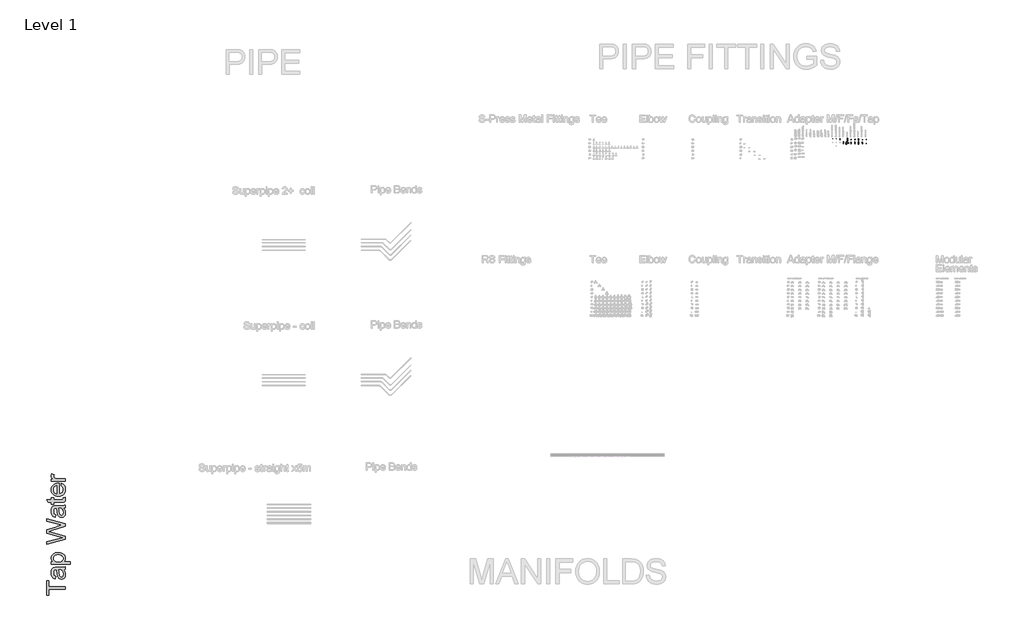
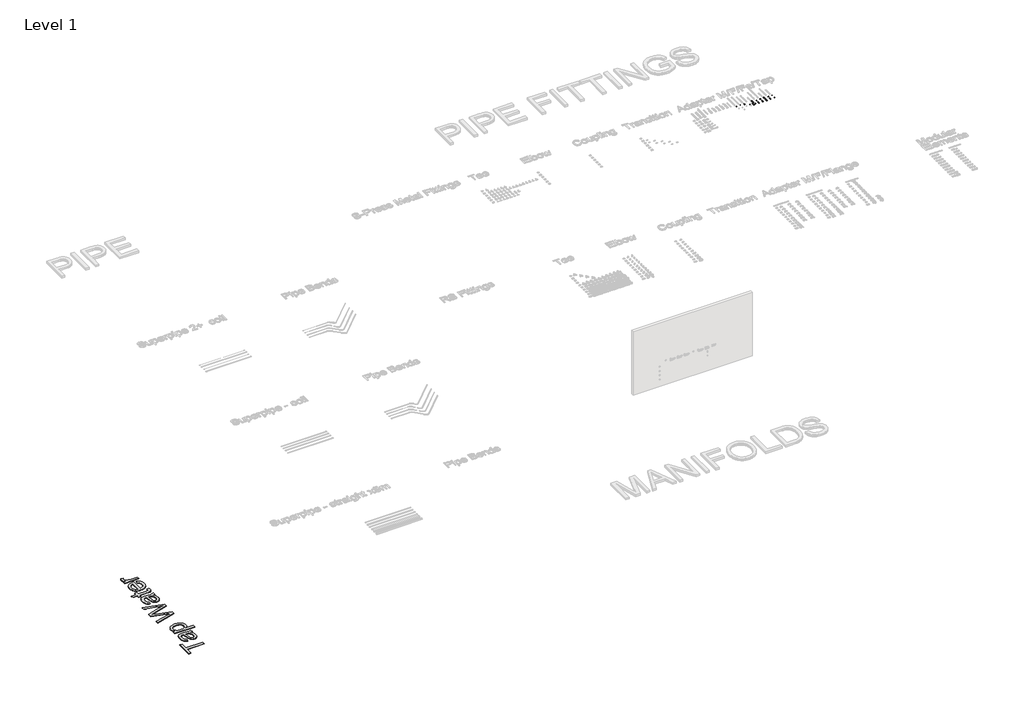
# One storey, part 6 of 58: 55 pipe fittings, 1 proxy.
"""IFC4 building model written with IfcOpenShell, lengths in millimetres."""

from ifc_helpers import new_model, si_unit, frame, origin, place, context, project, spatial, polyline, outline, extrude, transform, mapped, element, save
from components import pipe_fitting_8efa302d, pipe_fitting_ba7d6cd7, pipe_fitting_62024e3c, pipe_fitting_831a4182, pipe_fitting_687f7d2e, pipe_fitting_fd43bd29, pipe_fitting_230b2432, pipe_fitting_d8af90f1, pipe_fitting_8ddd92a3, pipe_fitting_2b53eb9e, pipe_fitting_a4cde8ab, pipe_fitting_0ffa7dfd, manifold_cap_ft_4510c732, manifold_cap_ft_2143a354, pipe_fitting_483da3ce

model = new_model("IFC4")

# Units and contexts
model_context = context("Model", 3, world=origin())
ifc_project = project(units=[si_unit("LENGTHUNIT", "METRE", prefix="MILLI")], contexts=[model_context])

# Site, building, storey
site = spatial("IfcSite", under=ifc_project)
building = spatial("IfcBuilding", under=site)
storey = spatial("IfcBuildingStorey", under=building, Name="Level 1", Elevation=27.3876384)

# Proxy
placement = place(None, origin())
element("IfcBuildingElementProxy", 1, Name="1500mm Arial - color", ObjectType="1500mm Arial - color", at=placement, inside=storey, context=model_context, shape_type="SweptSolid", body=[
    extrude(outline(polyline([(-29682.7797946, -6207.3028458), (-31001.2688653, -6207.3028458), (-31001.2688653, -6701.7362473), (-31189.6244468, -6701.7362473), (-31189.6244468, -5524.5138628), (-31001.2688653, -5524.5138628), (-31001.2688653, -6018.9472643), (-29682.7797946, -6018.9472643), (-29682.7797946, -6207.3028458)])), frame((0.0, 0.0, 27.3876384), z_axis=(0.0, 0.0, 1.0), x_axis=(1.0, 0.0, 0.0)), (0.0, 0.0, 1.0), 30.0),
    extrude(outline(polyline([(-29824.0464807, -4629.8248505), (-29782.1309259, -4674.488024), (-29746.8832322, -4719.8179836), (-29718.3033997, -4765.8147293), (-29696.3914284, -4812.4782611), (-29680.1356427, -4860.3374094), (-29668.5243673, -4909.9210046), (-29661.557602, -4961.2290466), (-29659.2353469, -5014.2615355), (-29664.8225547, -5098.127134), (-29671.8065644, -5136.1885502), (-29681.5841781, -5171.6690441), (-29694.1553956, -5204.568616), (-29709.5202171, -5234.8872658), (-29727.6786424, -5262.6249934), (-29748.6306717, -5287.7817989), (-29771.755504, -5310.1564968), (-29796.4323384, -5329.5479016), (-29822.6611751, -5345.9560134), (-29850.4420139, -5359.3808322), (-29879.7748548, -5369.8223579), (-29910.659698, -5377.2805905), (-29977.0853907, -5383.2471766), (-30017.0235798, -5380.9938994), (-30055.1683442, -5374.2340677), (-30091.5196838, -5362.9676816), (-30126.0775988, -5347.1947411), (-30158.0833323, -5327.7544769), (-30186.778128, -5305.4861199), (-30212.1619856, -5280.38967), (-30234.2349053, -5252.4651273), (-30270.1033999, -5190.1551144), (-30296.0390805, -5120.5794321), (-30310.4784488, -5052.7971745), (-30324.3659942, -4957.6077082), (-30338.6214215, -4854.0029413), (-30354.1644358, -4765.0214837), (-30370.995037, -4690.6633355), (-30389.1132253, -4630.9284965), (-30431.0517728, -4629.8248505), (-30476.7151254, -4633.0668106), (-30515.1128087, -4642.7926908), (-30546.2448225, -4659.0024912), (-30570.1111669, -4681.6962118), (-30593.9315261, -4720.9216296), (-30610.9460684, -4768.7003037), (-30621.1547938, -4825.0322342), (-30624.5577022, -4889.9174211), (-30622.2929287, -4950.2500683), (-30615.4986081, -5002.1214296), (-30604.1747404, -5045.531505), (-30588.3213257, -5080.4802946), (-30566.6967622, -5109.1980828), (-30538.0594481, -5133.9151544), (-30502.4093835, -5154.6315092), (-30459.7465684, -5171.3471474), (-30483.2910161, -5359.7027289), (-30537.5536104, -5345.3668274), (-30586.2979747, -5327.0072166), (-30629.5241092, -5304.6238965), (-30667.2320137, -5278.216867), (-30700.1804448, -5246.6479933), (-30729.1281593, -5208.7791404), (-30754.0751571, -5164.6103084), (-30775.0214382, -5114.1414972), (-30791.5991207, -5058.3958786), (-30803.4403224, -4998.3966244), (-30810.5450434, -4934.1437347), (-30812.9132837, -4865.6372094), (-30810.8209549, -4798.67119), (-30804.5439684, -4738.3040538), (-30794.0823241, -4684.535801), (-30779.4360222, -4637.3664314), (-30761.6282344, -4596.4050705), (-30741.6821324, -4561.2608436), (-30719.5977164, -4531.9337508), (-30695.3749863, -4508.4237921), (-30668.4161338, -4489.3629062), (-30638.1233508, -4473.3830321), (-30604.4966372, -4460.4841696), (-30567.535993, -4450.6663188), (-30502.4208798, -4443.7685314), (-30402.7248591, -4441.469269), (-30168.3840282, -4441.469269), (-29964.2555061, -4439.078036), (-29841.1529935, -4431.9043371), (-29760.2649398, -4417.7408803), (-29682.7797946, -4394.3803736), (-29682.7797946, -4582.7359551), (-29714.2337052, -4599.4745859), (-29748.2627897, -4612.9022787), (-29784.8670482, -4623.0190336), (-29824.0464807, -4629.8248505)]), holes=[polyline([(-30200.7576438, -4629.8248505), (-30184.4558729, -4686.7545893), (-30169.3957037, -4756.3762568), (-30143.0001705, -4933.6953785), (-30128.5608022, -5031.4140335), (-30112.4659649, -5095.7473974), (-30091.5886617, -5137.9158711), (-30078.1839615, -5154.8959244), (-30062.8018956, -5169.1398554), (-30045.9942869, -5180.4062415), (-30028.3129585, -5188.4536602), (-30009.7579104, -5193.2821114), (-29990.3291425, -5194.8915951), (-29961.0595313, -5191.3852198), (-29934.3191088, -5180.866094), (-29910.107875, -5163.3342177), (-29888.4258299, -5138.7895908), (-29870.5605605, -5107.4621397), (-29857.7996538, -5069.5817905), (-29850.1431097, -5025.1485433), (-29847.5909284, -4974.162398), (-29850.4075249, -4922.1070957), (-29858.8573145, -4872.9948493), (-29872.9402971, -4826.8256589), (-29892.6564728, -4783.5995245), (-29916.3733652, -4744.604033), (-29942.4584979, -4711.1267714), (-29970.911871, -4683.1677398), (-30001.7334844, -4660.7269381), (-30029.324634, -4647.6901199), (-30062.8018956, -4638.3781069), (-30102.1652691, -4632.7908991), (-30147.4147545, -4630.9284965), (-30200.7576438, -4629.8248505)])]), frame((0.0, 0.0, 27.3876384), z_axis=(0.0, 0.0, 1.0), x_axis=(1.0, 0.0, 0.0)), (0.0, 0.0, 1.0), 30.0),
    extrude(outline(polyline([(-29258.9797361, -4182.4803444), (-30789.3688361, -4182.4803444), (-30789.3688361, -3994.1247628), (-30604.6920745, -3994.1247628), (-30653.4939204, -3964.3263212), (-30695.7888535, -3932.6884696), (-30731.5768739, -3899.2112081), (-30760.8579814, -3863.8945365), (-30783.6321762, -3825.7267795), (-30799.8994582, -3783.6962616), (-30809.6598274, -3737.8029827), (-30812.9132837, -3688.0469428), (-30808.3607441, -3622.3570141), (-30794.703125, -3560.667802), (-30771.9404265, -3502.9793066), (-30740.0726487, -3449.291528), (-30699.927526, -3400.7770899), (-30652.3327929, -3358.6086162), (-30597.2884493, -3322.7861069), (-30534.7944954, -3293.309562), (-30466.9892452, -3270.2939447), (-30396.0110127, -3253.854218), (-30321.8597981, -3243.990382), (-30244.5356012, -3240.7024367), (-30161.8656191, -3244.4157456), (-30083.4492726, -3255.5556723), (-30009.2865616, -3274.1222167), (-29939.3774862, -3300.1153789), (-29875.54996, -3333.1787733), (-29819.6318968, -3372.956014), (-29771.6232964, -3419.4471011), (-29731.5241589, -3472.6520347), (-29699.8978037, -3529.9611517), (-29677.3075499, -3588.7647894), (-29663.7533976, -3649.0629477), (-29659.2353469, -3710.8556265), (-29662.258877, -3755.3118664), (-29671.3294675, -3797.4458512), (-29686.4471182, -3837.2575808), (-29707.6118292, -3874.7470554), (-29733.3980578, -3909.4544224), (-29762.3802613, -3940.9198293), (-29794.5584395, -3969.1432761), (-29829.9325926, -3994.1247628), (-29258.9797361, -3994.1247628), (-29258.9797361, -4182.4803444)]), holes=[polyline([(-30227.2451474, -3994.1247628), (-30136.4702651, -3989.0318965), (-30058.3873116, -3973.7532974), (-30024.1053082, -3962.294348), (-29992.996287, -3948.2889655), (-29965.060248, -3931.7371498), (-29940.2971912, -3912.6389009), (-29899.7382012, -3869.7231669), (-29870.7674941, -3822.4618268), (-29853.3850698, -3770.8548807), (-29847.5909284, -3714.9023285), (-29853.5920034, -3658.1450344), (-29861.0933473, -3631.3442563), (-29871.5952286, -3605.5953907), (-29901.6006038, -3557.2533972), (-29943.6081291, -3513.1190541), (-29969.2621502, -3493.4172489), (-29998.2156128, -3476.3423509), (-30030.4685171, -3461.8943604), (-30066.020863, -3450.0732772), (-30104.8726506, -3440.8791014), (-30147.0238799, -3434.311833), (-30241.2246632, -3429.0580182), (-30331.2177963, -3434.1853736), (-30409.162794, -3449.5674395), (-30443.6172422, -3461.1039889), (-30475.0596564, -3475.204216), (-30503.4900369, -3491.8681208), (-30528.9083835, -3511.0957032), (-30570.7549604, -3554.114904), (-30600.6453725, -3601.1348215), (-30618.5796198, -3652.1554557), (-30624.5577022, -3707.1768066), (-30622.968337, -3735.0065047), (-30618.2002415, -3762.0257128), (-30610.2534156, -3788.2344309), (-30599.1278593, -3813.632659), (-30567.3405557, -3861.997645), (-30522.8383305, -3907.120671), (-30495.9685745, -3927.512255), (-30466.2189922, -3945.1849612), (-30433.5895837, -3960.1387895), (-30398.0803489, -3972.3737399), (-30359.6912879, -3981.8898124), (-30318.4224007, -3988.6870071), (-30227.2451474, -3994.1247628)])]), frame((0.0, 0.0, 27.3876384), z_axis=(0.0, 0.0, 1.0), x_axis=(1.0, 0.0, 0.0)), (0.0, 0.0, 1.0), 30.0),
    extrude(outline(polyline([(-29682.7797946, -2146.9892651), (-31189.6244468, -2557.9134537), (-31189.6244468, -2363.6717602), (-30199.2861158, -2125.2842273), (-29893.5761778, -2051.7078283), (-30163.9694443, -1972.9810813), (-31189.6244468, -1674.2609012), (-31189.6244468, -1394.3027029), (-30446.1349346, -1177.2523258), (-30308.2711569, -1127.7032195), (-30170.2234382, -1084.2701515), (-30031.9917785, -1046.9531216), (-29893.5761778, -1015.7521299), (-30190.4569479, -944.3830228), (-31189.6244468, -703.788198), (-31189.6244468, -509.5465045), (-29682.7797946, -920.8385751), (-29682.7797946, -1122.0700265), (-30845.2868993, -1483.3301458), (-31007.5228592, -1533.7299791), (-30812.1775198, -1590.3838063), (-29682.7797946, -1919.638192), (-29682.7797946, -2146.9892651)])), frame((0.0, 0.0, 27.3876384), z_axis=(0.0, 0.0, 1.0), x_axis=(1.0, 0.0, 0.0)), (0.0, 0.0, 1.0), 30.0),
    extrude(outline(polyline([(-29824.0464807, 361.5980601), (-29782.1309259, 316.9348866), (-29746.8832322, 271.604927), (-29718.3033997, 225.6081813), (-29696.3914284, 178.9446495), (-29680.1356427, 131.0855011), (-29668.5243673, 81.501906), (-29661.557602, 30.193864), (-29659.2353469, -22.8386249), (-29664.8225547, -106.7042235), (-29671.8065644, -144.7656396), (-29681.5841781, -180.2461336), (-29694.1553956, -213.1457055), (-29709.5202171, -243.4643552), (-29727.6786424, -271.2020828), (-29748.6306717, -296.3588883), (-29771.755504, -318.7335862), (-29796.4323384, -338.1249911), (-29822.6611751, -354.5331029), (-29850.4420139, -367.9579216), (-29879.7748548, -378.3994473), (-29910.659698, -385.85768), (-29977.0853907, -391.8242661), (-30017.0235798, -389.5709888), (-30055.1683442, -382.8111572), (-30091.5196838, -371.5447711), (-30126.0775988, -355.7718305), (-30158.0833323, -336.3315664), (-30186.778128, -314.0632093), (-30212.1619856, -288.9667595), (-30234.2349053, -261.0422168), (-30270.1033999, -198.7322038), (-30296.0390805, -129.1565215), (-30310.4784488, -61.3742639), (-30324.3659942, 33.8152024), (-30338.6214215, 137.4199692), (-30354.1644358, 226.4014268), (-30370.995037, 300.7595751), (-30389.1132253, 360.4944141), (-30431.0517728, 361.5980601), (-30476.7151254, 358.3561), (-30515.1128087, 348.6302197), (-30546.2448225, 332.4204193), (-30570.1111669, 309.7266987), (-30593.9315261, 270.501281), (-30610.9460684, 222.7226069), (-30621.1547938, 166.3906764), (-30624.5577022, 101.5054895), (-30622.2929287, 41.1728423), (-30615.4986081, -10.6985191), (-30604.1747404, -54.1085945), (-30588.3213257, -89.057384), (-30566.6967622, -117.7751723), (-30538.0594481, -142.4922438), (-30502.4093835, -163.2085987), (-30459.7465684, -179.9242368), (-30483.2910161, -368.2798184), (-30537.5536104, -353.9439169), (-30586.2979747, -335.5843061), (-30629.5241092, -313.2009859), (-30667.2320137, -286.7939564), (-30700.1804448, -255.2250827), (-30729.1281593, -217.3562299), (-30754.0751571, -173.1873978), (-30775.0214382, -122.7185866), (-30791.5991207, -66.972968), (-30803.4403224, -6.9737139), (-30810.5450434, 57.2791759), (-30812.9132837, 125.7857012), (-30810.8209549, 192.7517206), (-30804.5439684, 253.1188567), (-30794.0823241, 306.8871096), (-30779.4360222, 354.0564792), (-30761.6282344, 395.0178401), (-30741.6821324, 430.1620669), (-30719.5977164, 459.4891597), (-30695.3749863, 482.9991185), (-30668.4161338, 502.0600043), (-30638.1233508, 518.0398785), (-30604.4966372, 530.938741), (-30567.535993, 540.7565917), (-30502.4208798, 547.6543791), (-30402.7248591, 549.9536416), (-30168.3840282, 549.9536416), (-29964.2555061, 552.3448746), (-29841.1529935, 559.5185735), (-29760.2649398, 573.6820303), (-29682.7797946, 597.042537), (-29682.7797946, 408.6869554), (-29714.2337052, 391.9483247), (-29748.2627897, 378.5206318), (-29784.8670482, 368.403877), (-29824.0464807, 361.5980601)]), holes=[polyline([(-30200.7576438, 361.5980601), (-30184.4558729, 304.6683213), (-30169.3957037, 235.0466537), (-30143.0001705, 57.727532), (-30128.5608022, -39.9911229), (-30112.4659649, -104.3244868), (-30091.5886617, -146.4929605), (-30078.1839615, -163.4730139), (-30062.8018956, -177.7169449), (-30045.9942869, -188.983331), (-30028.3129585, -197.0307496), (-30009.7579104, -201.8592008), (-29990.3291425, -203.4686845), (-29961.0595313, -199.9623093), (-29934.3191088, -189.4431835), (-29910.107875, -171.9113071), (-29888.4258299, -147.3666803), (-29870.5605605, -116.0392291), (-29857.7996538, -78.1588799), (-29850.1431097, -33.7256327), (-29847.5909284, 17.2605126), (-29850.4075249, 69.3158149), (-29858.8573145, 118.4280612), (-29872.9402971, 164.5972516), (-29892.6564728, 207.8233861), (-29916.3733652, 246.8188776), (-29942.4584979, 280.2961391), (-29970.911871, 308.2551708), (-30001.7334844, 330.6959725), (-30029.324634, 343.7327907), (-30062.8018956, 353.0448037), (-30102.1652691, 358.6320115), (-30147.4147545, 360.4944141), (-30200.7576438, 361.5980601)])]), frame((0.0, 0.0, 27.3876384), z_axis=(0.0, 0.0, 1.0), x_axis=(1.0, 0.0, 0.0)), (0.0, 0.0, 1.0), 30.0),
    extrude(outline(polyline([(-29839.8654065, 1209.1981769), (-29677.2615646, 1232.7426246), (-29663.7419013, 1158.1545501), (-29659.2353469, 1091.8438205), (-29661.18972, 1043.7662422), (-29667.0528393, 1001.4368202), (-29676.8247048, 964.8555543), (-29690.5053165, 934.0224446), (-29707.3589104, 908.1327491), (-29726.6497225, 886.3817262), (-29748.3777528, 868.7693757), (-29772.5430014, 855.2956976), (-29804.9396096, 845.3168985), (-29851.3617189, 838.1891848), (-29911.8093292, 833.9125566), (-29986.2824406, 832.4870139), (-30601.0132545, 832.4870139), (-30601.0132545, 691.2203277), (-30789.3688361, 691.2203277), (-30789.3688361, 832.4870139), (-31058.2905745, 832.4870139), (-31169.0230551, 1020.8425954), (-30789.3688361, 1020.8425954), (-30789.3688361, 1209.1981769), (-30601.0132545, 1209.1981769), (-30601.0132545, 1020.8425954), (-29991.8006705, 1020.8425954), (-29929.8125543, 1023.3257989), (-29894.6798238, 1030.7754093), (-29875.2280633, 1043.7892349), (-29860.2828572, 1062.9650839), (-29850.7639106, 1090.1423663), (-29847.5909284, 1127.160492), (-29839.8654065, 1209.1981769)])), frame((0.0, 0.0, 27.3876384), z_axis=(0.0, 0.0, 1.0), x_axis=(1.0, 0.0, 0.0)), (0.0, 0.0, 1.0), 30.0),
    extrude(outline(polyline([(-30012.4020622, 2172.3132403), (-29988.8576146, 2356.9900019), (-29914.8903409, 2328.6745846), (-29881.2003976, 2310.800693), (-29849.7062499, 2290.449346), (-29820.4078979, 2267.6205438), (-29793.3053415, 2242.3142862), (-29768.3985808, 2214.5305733), (-29745.6876157, 2184.2694052), (-29725.4253652, 2151.6802337), (-29707.8647481, 2116.9125111), (-29693.0057644, 2079.9662373), (-29680.8484141, 2040.8414123), (-29664.6386137, 1956.0561087), (-29659.2353469, 1862.5566004), (-29661.5662242, 1802.5286054), (-29668.5588562, 1745.685089), (-29680.2132428, 1692.0260511), (-29696.5293841, 1641.5514918), (-29717.5072801, 1594.2614109), (-29743.1469307, 1550.1558086), (-29773.448336, 1509.2346848), (-29808.4114959, 1471.4980395), (-29847.5823062, 1437.6126589), (-29890.5066624, 1408.245329), (-29937.1845646, 1383.3960498), (-29987.6160128, 1363.0648214), (-30041.801007, 1347.2516438), (-30099.7395472, 1335.9565169), (-30161.4316333, 1329.1794408), (-30226.8772654, 1326.9204154), (-30294.5503081, 1329.2024334), (-30358.3261008, 1336.0484874), (-30418.2046437, 1347.4585774), (-30474.1859367, 1363.4327034), (-30526.2699798, 1383.9708654), (-30574.456773, 1409.0730635), (-30618.7463163, 1438.7392975), (-30659.1386098, 1472.9695675), (-30695.179549, 1510.8384204), (-30726.4150296, 1551.420403), (-30752.8450517, 1594.7155153), (-30774.4696153, 1640.7237573), (-30791.2887202, 1689.445129), (-30803.3023666, 1740.8796305), (-30810.5105545, 1795.0272616), (-30812.9132837, 1851.8880225), (-30810.5163026, 1906.8892549), (-30803.3253592, 1959.3210614), (-30791.3404536, 2009.1834422), (-30774.5615857, 2056.4763971), (-30752.9887556, 2101.1999262), (-30726.6219633, 2143.3540295), (-30695.4612086, 2182.938707), (-30659.5064918, 2219.9539587), (-30619.2061688, 2253.4513388), (-30575.008596, 2282.4824016), (-30526.9137733, 2307.047147), (-30474.9217007, 2327.145575), (-30419.0323782, 2342.7776858), (-30359.2458058, 2353.9434791), (-30295.5619836, 2360.6429551), (-30227.9809114, 2362.8761138), (-30177.2131961, 2361.7724678), (-30177.2131961, 1515.2759969), (-30102.0503059, 1526.1859974), (-30067.969488, 1535.6848254), (-30036.2224214, 1547.8795388), (-30006.8091063, 1562.7701373), (-29979.7295425, 1580.3566211), (-29954.9837302, 1600.6389902), (-29932.5716693, 1623.6172445), (-29895.3925952, 1675.2701759), (-29868.8361136, 1732.9241823), (-29852.9022247, 1796.5792638), (-29847.5909284, 1866.2354203), (-29850.0511392, 1918.3367079), (-29857.4317718, 1966.483264), (-29869.732826, 2010.6750887), (-29886.9543019, 2050.9121819), (-29909.556052, 2087.1945437), (-29937.9979287, 2119.522174), (-29972.2799321, 2147.8950729), (-30012.4020622, 2172.3132403)]), holes=[polyline([(-30365.5687776, 1515.2759969), (-30365.5687776, 2174.5205323), (-30418.8656817, 2164.8406373), (-30465.0808573, 2149.0447041), (-30504.2143045, 2127.1327328), (-30536.2660234, 2099.1047233), (-30556.9593856, 2074.3071775), (-30574.8936329, 2047.7391997), (-30590.0687652, 2019.4007898), (-30602.4847825, 1989.2919477), (-30619.0394723, 1923.7629673), (-30624.5577022, 1851.1522585), (-30620.1546146, 1784.9220031), (-30606.9453517, 1724.1869849), (-30584.9299135, 1668.9472041), (-30554.1083001, 1619.2026606), (-30515.9060542, 1577.4595504), (-30471.7487185, 1546.2240698), (-30421.6362929, 1525.4962186), (-30365.5687776, 1515.2759969)])]), frame((0.0, 0.0, 27.3876384), z_axis=(0.0, 0.0, 1.0), x_axis=(1.0, 0.0, 0.0)), (0.0, 0.0, 1.0), 30.0),
    extrude(outline(polyline([(-29682.7797946, 2551.2316954), (-30789.3688361, 2551.2316954), (-30789.3688361, 2716.0428292), (-30625.6613482, 2716.0428292), (-30677.992562, 2747.0828725), (-30720.574903, 2776.9272994), (-30753.408371, 2805.5761098), (-30776.4929662, 2833.0293037), (-30792.4268551, 2860.5284828), (-30803.8082044, 2889.3152489), (-30810.6370139, 2919.389602), (-30812.9132837, 2950.7515421), (-30809.280449, 2997.4725555), (-30798.3819449, 3044.5614509), (-30780.2177714, 3092.0182283), (-30754.7879285, 3139.8428876), (-30585.9300927, 3076.9350665), (-30602.8296719, 3043.8256869), (-30614.9007998, 3010.7163073), (-30622.1434766, 2977.6069278), (-30624.5577022, 2944.4975482), (-30622.2354471, 2915.6303079), (-30615.2686818, 2888.2575882), (-30603.6574064, 2862.3793891), (-30587.4016207, 2837.9957106), (-30567.0301552, 2816.0262577), (-30543.0718403, 2797.3907354), (-30515.5266759, 2782.0891436), (-30484.3946621, 2770.1214825), (-30432.9831532, 2756.7627675), (-30379.1804114, 2747.2208283), (-30322.9864367, 2741.4956647), (-30264.4012289, 2739.5872769), (-29682.7797946, 2739.5872769), (-29682.7797946, 2551.2316954)])), frame((0.0, 0.0, 27.3876384), z_axis=(0.0, 0.0, 1.0), x_axis=(1.0, 0.0, 0.0)), (0.0, 0.0, 1.0), 30.0),
])

# Pipe fittings
pipe_fitting_shape = pipe_fitting_8efa302d(model_context)
element("IfcPipeFitting", 2, ObjectType="Coupling Nipple 1/2\"MT : Superpipe Coupling Nipple - 1/2\"MT-1/2\"MT", at=placement, inside=storey, context=model_context, shape_type="MappedRepresentation", body=[
    mapped(pipe_fitting_shape, transform((33041.8041997, 30260.0431886, 27.3876384), x_axis=(1.0, 0.0, 0.0), y_axis=(0.0, 1.0, 0.0), z_axis=(0.0, 0.0, 1.0))),
])
pipe_fitting_2_shape = pipe_fitting_ba7d6cd7(model_context)
element("IfcPipeFitting", 3, ObjectType="Conversion Nipple 3/4\"FT : Superpipe Conversion Nipple  16-3/4\"FT", at=placement, inside=storey, context=model_context, shape_type="MappedRepresentation", body=[
    mapped(pipe_fitting_2_shape, transform((33949.3518929, 30182.5546879, 27.3876384), x_axis=(1.0, 0.0, 0.0), y_axis=(0.0, 1.0, 0.0), z_axis=(0.0, 0.0, 1.0))),
])
element("IfcPipeFitting", 4, ObjectType="Coupling Nipple 1/2\"MT : Superpipe Coupling Nipple - 16-1/2\"MT", at=placement, inside=storey, context=model_context, shape_type="MappedRepresentation", body=[
    mapped(pipe_fitting_shape, transform((33041.8041997, 30183.7870562, 27.3876384), x_axis=(1.0, 0.0, 0.0), y_axis=(0.0, 0.0, -1.0), z_axis=(0.0, 1.0, 0.0))),
])
pipe_fitting_3_shape = pipe_fitting_62024e3c(model_context)
element("IfcPipeFitting", 5, ObjectType="Coupling Nipple 3/4\"MT : Superpipe Coupling Nipple - 16-3/4\"MT", at=placement, inside=storey, context=model_context, shape_type="MappedRepresentation", body=[
    mapped(pipe_fitting_3_shape, transform((33343.4184031, 30011.9125505, 27.3876384), x_axis=(1.0, 0.0, 0.0), y_axis=(0.0, 1.0, 0.0), z_axis=(0.0, 0.0, 1.0))),
])
element("IfcPipeFitting", 6, ObjectType="Conversion Nipple 3/4\"FT : Superpipe Conversion Nipple - 3/4\"MT-3/4\"FT", at=placement, inside=storey, context=model_context, shape_type="MappedRepresentation", body=[
    mapped(pipe_fitting_2_shape, transform((33949.3518929, 29862.5546879, 27.3876384), x_axis=(1.0, 0.0, 0.0), y_axis=(0.0, 1.0, 0.0), z_axis=(0.0, 0.0, 1.0))),
])
element("IfcPipeFitting", 7, ObjectType="Conversion Nipple 3/4\"FT : Superpipe Conversion Nipple - 20-3/4\"FT", at=placement, inside=storey, context=model_context, shape_type="MappedRepresentation", body=[
    mapped(pipe_fitting_2_shape, transform((33949.3518929, 29962.5546879, 27.3876384), x_axis=(1.0, 0.0, 0.0), y_axis=(0.0, 1.0, 0.0), z_axis=(0.0, 0.0, 1.0))),
])
pipe_fitting_4_shape = pipe_fitting_831a4182(model_context)
element("IfcPipeFitting", 8, ObjectType="Conversion Elbow 1/2\"MT-1/2\"FT : Superpipe Conversion Elbow - 1/2\"MT-1/2\"FT", at=placement, inside=storey, context=model_context, shape_type="MappedRepresentation", body=[
    mapped(pipe_fitting_4_shape, transform((34240.1121716, 29865.0431886, 27.3876384), x_axis=(-1.0, 0.0, 0.0), y_axis=(0.0, 1.0000000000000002, 0.0), z_axis=(0.0, 0.0, -1.0000000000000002))),
])
element("IfcPipeFitting", 9, ObjectType="Conversion Elbow 1/2\"MT-1/2\"FT : Superpipe Conversion Elbow - 20-1/2\"FT", at=placement, inside=storey, context=model_context, shape_type="MappedRepresentation", body=[
    mapped(pipe_fitting_4_shape, transform((34240.1121716, 29965.0431886, 27.3876384), x_axis=(-1.0, 0.0, 0.0), y_axis=(0.0, 1.0000000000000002, 0.0), z_axis=(0.0, 0.0, -1.0000000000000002))),
])
element("IfcPipeFitting", 10, ObjectType="Conversion Elbow 1/2\"MT-1/2\"FT : Superpipe Conversion Elbow - 16-1/2\"FT", at=placement, inside=storey, context=model_context, shape_type="MappedRepresentation", body=[
    mapped(pipe_fitting_4_shape, transform((34240.1121716, 30190.0431886, 27.3876384), x_axis=(-1.0, 0.0, 0.0), y_axis=(0.0, 1.0000000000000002, 0.0), z_axis=(0.0, 0.0, -1.0000000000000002))),
])
pipe_fitting_5_shape = pipe_fitting_687f7d2e(model_context)
element("IfcPipeFitting", 11, ObjectType="Conversion Nipple 1/2\"FT : Superpipe Conversion Nipple - 1/2\"MT -1/2\"FT", at=placement, inside=storey, context=model_context, shape_type="MappedRepresentation", body=[
    mapped(pipe_fitting_5_shape, transform((34851.8746831, 29875.0431886, 27.3876384), x_axis=(1.0, 0.0, 0.0), y_axis=(0.0, 1.0, 0.0), z_axis=(0.0, 0.0, 1.0))),
])
element("IfcPipeFitting", 12, ObjectType="Conversion Nipple 1/2\"FT : Superpipe Conversion Nipple - 16-1/2\"FT", at=placement, inside=storey, context=model_context, shape_type="MappedRepresentation", body=[
    mapped(pipe_fitting_5_shape, transform((34861.2071833, 30180.7106884, 27.3876384), x_axis=(1.0, 0.0, 0.0), y_axis=(0.0, 1.0, 0.0), z_axis=(0.0, 0.0, 1.0))),
])
element("IfcPipeFitting", 13, ObjectType="Conversion Nipple 1/2\"FT : Superpipe Conversion Nipple - 20-1/2\"FT", at=placement, inside=storey, context=model_context, shape_type="MappedRepresentation", body=[
    mapped(pipe_fitting_5_shape, transform((34851.8746831, 29975.0431886, 27.3876384), x_axis=(1.0, 0.0, 0.0), y_axis=(0.0, 1.0, 0.0), z_axis=(0.0, 0.0, 1.0))),
])
pipe_fitting_6_shape = pipe_fitting_fd43bd29(model_context)
element("IfcPipeFitting", 14, ObjectType="Compression Adapter 1/2\"FT : Superpipe Compression Adapter", at=placement, inside=storey, context=model_context, shape_type="MappedRepresentation", body=[
    mapped(pipe_fitting_6_shape, transform((32440.8650131, 30264.1922591, 27.3876384), x_axis=(1.0, 0.0, 0.0), y_axis=(0.0, 1.0, 0.0), z_axis=(0.0, 0.0, 1.0))),
])
element("IfcPipeFitting", 15, ObjectType="Compression Adapter 1/2\"FT : Superpipe Compression Adapter", at=placement, inside=storey, context=model_context, shape_type="MappedRepresentation", body=[
    mapped(pipe_fitting_6_shape, transform((33015.8041997, 30183.7870562, 27.3876384), x_axis=(1.0, 0.0, 0.0), y_axis=(0.0, 0.0, -1.0), z_axis=(0.0, 1.0, 0.0))),
])
element("IfcPipeFitting", 16, ObjectType="Compression Adapter 1/2\"FT : Superpipe Compression Adapter", at=placement, inside=storey, context=model_context, shape_type="MappedRepresentation", body=[
    mapped(pipe_fitting_6_shape, transform((34281.1121716, 30190.0431886, 27.3876384), x_axis=(-1.0, 0.0, 0.0), y_axis=(0.0, 1.0000000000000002, 0.0), z_axis=(0.0, 0.0, -1.0000000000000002))),
])
element("IfcPipeFitting", 17, ObjectType="Compression Adapter 1/2\"FT : Superpipe Compression Adapter", at=placement, inside=storey, context=model_context, shape_type="MappedRepresentation", body=[
    mapped(pipe_fitting_6_shape, transform((34832.9571833, 30180.7106884, 27.3876384), x_axis=(1.0, 0.0, 0.0), y_axis=(0.0, 1.0, 0.0), z_axis=(0.0, 0.0, 1.0))),
])
pipe_fitting_7_shape = pipe_fitting_230b2432(model_context)
element("IfcPipeFitting", 18, ObjectType="Compression Adapter 1/2\"FT : Superpipe Compression Adapter", at=placement, inside=storey, context=model_context, shape_type="MappedRepresentation", body=[
    mapped(pipe_fitting_7_shape, transform((34285.1121716, 29965.0431886, 27.3876384), x_axis=(-1.0, 0.0, 0.0), y_axis=(0.0, 1.0000000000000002, 0.0), z_axis=(0.0, 0.0, -1.0000000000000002))),
])
element("IfcPipeFitting", 19, ObjectType="Compression Adapter 1/2\"FT : Superpipe Compression Adapter", at=placement, inside=storey, context=model_context, shape_type="MappedRepresentation", body=[
    mapped(pipe_fitting_7_shape, transform((34816.6246831, 29975.0431886, 27.3876384), x_axis=(1.0, 0.0, 0.0), y_axis=(0.0, 1.0, 0.0), z_axis=(0.0, 0.0, 1.0))),
])
pipe_fitting_8_shape = pipe_fitting_d8af90f1(model_context)
element("IfcPipeFitting", 20, ObjectType="Compression Adapter 3/4\"FT : Superpipe Compression Adapter", at=placement, inside=storey, context=model_context, shape_type="MappedRepresentation", body=[
    mapped(pipe_fitting_8_shape, transform((32726.8746831, 30260.0431886, 27.3876384), x_axis=(1.0, 0.0, 0.0), y_axis=(0.0, 1.0, 0.0), z_axis=(0.0, 0.0, 1.0))),
])
element("IfcPipeFitting", 21, ObjectType="Compression Adapter 3/4\"FT : Superpipe Compression Adapter", at=placement, inside=storey, context=model_context, shape_type="MappedRepresentation", body=[
    mapped(pipe_fitting_8_shape, transform((33644.0929372, 30205.372274, 27.3876384), x_axis=(0.0, 1.0, 0.0), y_axis=(-1.0, 0.0, 0.0), z_axis=(0.0, 0.0, 1.0))),
])
element("IfcPipeFitting", 22, ObjectType="Compression Adapter 3/4\"FT : Superpipe Compression Adapter", at=placement, inside=storey, context=model_context, shape_type="MappedRepresentation", body=[
    mapped(pipe_fitting_8_shape, transform((33659.7145332, 30089.9764499, 27.3876384), x_axis=(1.0, 0.0, 0.0), y_axis=(0.0, 1.0, 0.0), z_axis=(0.0, 0.0, 1.0))),
])
element("IfcPipeFitting", 23, ObjectType="Compression Adapter 3/4\"FT : Superpipe Compression Adapter", at=placement, inside=storey, context=model_context, shape_type="MappedRepresentation", body=[
    mapped(pipe_fitting_8_shape, transform((33644.0929372, 30105.372274, 27.3876384), x_axis=(0.0, 1.0, 0.0), y_axis=(-1.0, 0.0, 0.0), z_axis=(0.0, 0.0, 1.0))),
])
element("IfcPipeFitting", 24, ObjectType="Compression Adapter 3/4\"FT : Superpipe Compression Adapter", at=placement, inside=storey, context=model_context, shape_type="MappedRepresentation", body=[
    mapped(pipe_fitting_8_shape, transform((34531.8746831, 30257.5431886, 27.3876384), x_axis=(0.0, 1.0, 0.0), y_axis=(-1.0, 0.0, 0.0), z_axis=(0.0, 0.0, 1.0))),
])
element("IfcPipeFitting", 25, ObjectType="Compression Adapter 3/4\"FT : Superpipe Compression Adapter", at=placement, inside=storey, context=model_context, shape_type="MappedRepresentation", body=[
    mapped(pipe_fitting_8_shape, transform((34531.8746831, 30157.5431886, 27.3876384), x_axis=(0.0, 1.0, 0.0), y_axis=(-1.0, 0.0, 0.0), z_axis=(0.0, 0.0, 1.0))),
])
element("IfcPipeFitting", 26, ObjectType="Compression Adapter 3/4\"FT : Superpipe Compression Adapter", at=placement, inside=storey, context=model_context, shape_type="MappedRepresentation", body=[
    mapped(pipe_fitting_8_shape, transform((34551.8345617, 30137.5431886, 27.3876384), x_axis=(1.0, 0.0, 0.0), y_axis=(0.0, 1.0, 0.0), z_axis=(0.0, 0.0, 1.0))),
])
pipe_fitting_9_shape = pipe_fitting_8ddd92a3(model_context)
element("IfcPipeFitting", 27, ObjectType="Compression Adapter 3/4\"FT : Superpipe Compression Adapter", at=placement, inside=storey, context=model_context, shape_type="MappedRepresentation", body=[
    mapped(pipe_fitting_9_shape, transform((33337.8277391, 29873.890947, 27.3876384), x_axis=(-1.0, 0.0, 0.0), y_axis=(0.0, -1.0, 0.0), z_axis=(0.0, 0.0, 1.0))),
])
element("IfcPipeFitting", 28, ObjectType="Compression Adapter 3/4\"FT : Superpipe Compression Adapter", at=placement, inside=storey, context=model_context, shape_type="MappedRepresentation", body=[
    mapped(pipe_fitting_9_shape, transform((33551.8160614, 30002.7497821, 27.3876384), x_axis=(-1.0, 0.0, 0.0), y_axis=(0.0, -1.0, 0.0), z_axis=(0.0, 0.0, 1.0))),
])
element("IfcPipeFitting", 29, ObjectType="Compression Adapter 3/4\"FT : Superpipe Compression Adapter", at=placement, inside=storey, context=model_context, shape_type="MappedRepresentation", body=[
    mapped(pipe_fitting_9_shape, transform((33547.9048223, 29917.7300897, 27.3876384), x_axis=(-1.0, 0.0, 0.0), y_axis=(0.0, -1.0, 0.0), z_axis=(0.0, 0.0, 1.0))),
])
element("IfcPipeFitting", 30, ObjectType="Compression Adapter 3/4\"FT : Superpipe Compression Adapter", at=placement, inside=storey, context=model_context, shape_type="MappedRepresentation", body=[
    mapped(pipe_fitting_9_shape, transform((33549.9490576, 29838.9596168, 27.3876384), x_axis=(-1.0, 0.0, 0.0), y_axis=(0.0, -1.0, 0.0), z_axis=(0.0, 0.0, 1.0))),
])
element("IfcPipeFitting", 31, ObjectType="Compression Adapter 3/4\"FT : Superpipe Compression Adapter", at=placement, inside=storey, context=model_context, shape_type="MappedRepresentation", body=[
    mapped(pipe_fitting_9_shape, transform((33941.3518929, 29962.5546879, 27.3876384), x_axis=(-1.0, 0.0, 0.0), y_axis=(0.0, -1.0, 0.0), z_axis=(0.0, 0.0, 1.0))),
])
pipe_fitting_10_shape = pipe_fitting_2b53eb9e(model_context)
element("IfcPipeFitting", 32, ObjectType="Compression Adapter 3/4\"FT : Superpipe Compression Adapter", at=placement, inside=storey, context=model_context, shape_type="MappedRepresentation", body=[
    mapped(pipe_fitting_10_shape, transform((33338.7351792, 30011.9125505, 27.3876384), x_axis=(-1.0, 0.0, 0.0), y_axis=(0.0, -1.0, 0.0), z_axis=(0.0, 0.0, 1.0))),
])
element("IfcPipeFitting", 33, ObjectType="Compression Adapter 3/4\"FT : Superpipe Compression Adapter", at=placement, inside=storey, context=model_context, shape_type="MappedRepresentation", body=[
    mapped(pipe_fitting_10_shape, transform((33628.4713412, 30189.9764499, 27.3876384), x_axis=(-1.0, 0.0, 0.0), y_axis=(0.0, -1.0, 0.0), z_axis=(0.0, 0.0, 1.0))),
])
element("IfcPipeFitting", 34, ObjectType="Compression Adapter 3/4\"FT : Superpipe Compression Adapter", at=placement, inside=storey, context=model_context, shape_type="MappedRepresentation", body=[
    mapped(pipe_fitting_10_shape, transform((33628.4713412, 30089.9764499, 27.3876384), x_axis=(-1.0, 0.0, 0.0), y_axis=(0.0, -1.0, 0.0), z_axis=(0.0, 0.0, 1.0))),
])
element("IfcPipeFitting", 35, ObjectType="Compression Adapter 3/4\"FT : Superpipe Compression Adapter", at=placement, inside=storey, context=model_context, shape_type="MappedRepresentation", body=[
    mapped(pipe_fitting_10_shape, transform((33628.4713412, 30289.9764499, 27.3876384), x_axis=(-1.0, 0.0, 0.0), y_axis=(0.0, -1.0, 0.0), z_axis=(0.0, 0.0, 1.0))),
])
element("IfcPipeFitting", 36, ObjectType="Compression Adapter 3/4\"FT : Superpipe Compression Adapter", at=placement, inside=storey, context=model_context, shape_type="MappedRepresentation", body=[
    mapped(pipe_fitting_10_shape, transform((33941.3518929, 30182.5546879, 27.3876384), x_axis=(-1.0, 0.0, 0.0), y_axis=(0.0, -1.0, 0.0), z_axis=(0.0, 0.0, 1.0))),
])
pipe_fitting_11_shape = pipe_fitting_a4cde8ab(model_context)
element("IfcPipeFitting", 37, ObjectType="Compression Adapter 3/4\"FT : Superpipe Compression Adapter", at=placement, inside=storey, context=model_context, shape_type="MappedRepresentation", body=[
    mapped(pipe_fitting_11_shape, transform((33563.5264183, 29933.1259138, 27.3876384), x_axis=(0.0, 1.0, 0.0), y_axis=(-1.0, 0.0, 0.0), z_axis=(0.0, 0.0, 1.0))),
])
element("IfcPipeFitting", 38, ObjectType="Compression Adapter 3/4\"FT : Superpipe Compression Adapter", at=placement, inside=storey, context=model_context, shape_type="MappedRepresentation", body=[
    mapped(pipe_fitting_11_shape, transform((33581.1922496, 29838.9596168, 27.3876384), x_axis=(1.0, 0.0, 0.0), y_axis=(0.0, 1.0, 0.0), z_axis=(0.0, 0.0, 1.0))),
])
element("IfcPipeFitting", 39, ObjectType="Compression Adapter 3/4\"FT : Superpipe Compression Adapter", at=placement, inside=storey, context=model_context, shape_type="MappedRepresentation", body=[
    mapped(pipe_fitting_11_shape, transform((33565.5706536, 29854.3554409, 27.3876384), x_axis=(0.0, 1.0, 0.0), y_axis=(-1.0, 0.0, 0.0), z_axis=(0.0, 0.0, 1.0))),
])
element("IfcPipeFitting", 40, ObjectType="Compression Adapter 3/4\"FT : Superpipe Compression Adapter", at=placement, inside=storey, context=model_context, shape_type="MappedRepresentation", body=[
    mapped(pipe_fitting_11_shape, transform((34531.8746831, 29995.0431886, 27.3876384), x_axis=(0.0, 1.0, 0.0), y_axis=(-1.0, 0.0, 0.0), z_axis=(0.0, 0.0, 1.0))),
])
element("IfcPipeFitting", 41, ObjectType="Compression Adapter 3/4\"FT : Superpipe Compression Adapter", at=placement, inside=storey, context=model_context, shape_type="MappedRepresentation", body=[
    mapped(pipe_fitting_11_shape, transform((34531.8746831, 29921.1316553, 27.3876384), x_axis=(0.0, 1.0, 0.0), y_axis=(-1.0, 0.0, 0.0), z_axis=(0.0, 0.0, 1.0))),
])
element("IfcPipeFitting", 42, ObjectType="Compression Adapter 3/4\"FT : Superpipe Compression Adapter", at=placement, inside=storey, context=model_context, shape_type="MappedRepresentation", body=[
    mapped(pipe_fitting_11_shape, transform((34551.8345617, 29901.1316553, 27.3876384), x_axis=(1.0, 0.0, 0.0), y_axis=(0.0, 1.0, 0.0), z_axis=(0.0, 0.0, 1.0))),
])
pipe_fitting_12_shape = pipe_fitting_0ffa7dfd(model_context)
element("IfcPipeFitting", 43, ObjectType="Elbow 3/4\" MT : Superpipe Elbow - 3/4\"MT-3/4\"MT", at=placement, inside=storey, context=model_context, shape_type="MappedRepresentation", body=[
    mapped(pipe_fitting_12_shape, transform((34531.8746831, 29822.2788614, 27.3876384), x_axis=(1.0, 0.0, 0.0), y_axis=(0.0, 1.0, 0.0), z_axis=(0.0, 0.0, 1.0))),
])
element("IfcPipeFitting", 44, ObjectType="Elbow 3/4\" MT : Superpipe Elbow - 20-3/4\"MT", at=placement, inside=storey, context=model_context, shape_type="MappedRepresentation", body=[
    mapped(pipe_fitting_12_shape, transform((34531.8746831, 29975.0431886, 27.3876384), x_axis=(1.0, 0.0, 0.0), y_axis=(0.0, 1.0, 0.0), z_axis=(0.0, 0.0, 1.0))),
])
element("IfcPipeFitting", 45, ObjectType="Elbow 3/4\" MT : Superpipe Elbow - 16-3/4\"MT", at=placement, inside=storey, context=model_context, shape_type="MappedRepresentation", body=[
    mapped(pipe_fitting_12_shape, transform((34531.8746831, 30237.5431886, 27.3876384), x_axis=(1.0, 0.0, 0.0), y_axis=(0.0, 1.0, 0.0), z_axis=(0.0, 0.0, 1.0))),
])
element("IfcPipeFitting", 46, ObjectType="Elbow 3/4\" MT : Superpipe Elbow - 16-16", at=placement, inside=storey, context=model_context, shape_type="MappedRepresentation", body=[
    mapped(pipe_fitting_12_shape, transform((34531.8746831, 30137.5431886, 27.3876384), x_axis=(1.0, 0.0, 0.0), y_axis=(0.0, 1.0, 0.0), z_axis=(0.0, 0.0, 1.0))),
])
element("IfcPipeFitting", 47, ObjectType="Elbow 3/4\" MT : Superpipe Elbow - 20-20", at=placement, inside=storey, context=model_context, shape_type="MappedRepresentation", body=[
    mapped(pipe_fitting_12_shape, transform((34531.8746831, 29901.1316553, 27.3876384), x_axis=(1.0, 0.0, 0.0), y_axis=(0.0, 1.0, 0.0), z_axis=(0.0, 0.0, 1.0))),
])
manifold_cap_ft_shape = manifold_cap_ft_4510c732(model_context)
element("IfcPipeFitting", 48, ObjectType="Manifold Cap FT : Superpipe Manifold Cap With Seal- ½\" FT", at=placement, inside=storey, context=model_context, shape_type="MappedRepresentation", body=[
    mapped(manifold_cap_ft_shape, transform((35151.8746831, 30190.0431886, 27.3876384), x_axis=(1.0, 0.0, 0.0), y_axis=(0.0, 1.0, 0.0), z_axis=(0.0, 0.0, 1.0))),
])
manifold_cap_ft_2_shape = manifold_cap_ft_2143a354(model_context)
element("IfcPipeFitting", 49, ObjectType="Manifold Cap FT : Superpipe Manifold Cap With Seal- 1\" FT", at=placement, inside=storey, context=model_context, shape_type="MappedRepresentation", body=[
    mapped(manifold_cap_ft_2_shape, transform((35151.8746831, 29890.0431886, 27.3876384), x_axis=(1.0, 0.0, 0.0), y_axis=(0.0, 1.0, 0.0), z_axis=(0.0, 0.0, 1.0))),
])
pipe_fitting_13_shape = pipe_fitting_483da3ce(model_context)
element("IfcPipeFitting", 50, ObjectType="Tee 3/4\"MT : Superpipe Tee - 3/4\"MT-3/4\"MT-3/4\"MT", at=placement, inside=storey, context=model_context, shape_type="MappedRepresentation", body=[
    mapped(pipe_fitting_13_shape, transform((33704.0929372, 29907.8249346, 27.3876384), x_axis=(1.0, 0.0, 0.0), y_axis=(0.0, 1.0, 0.0), z_axis=(0.0, 0.0, 1.0))),
])
element("IfcPipeFitting", 51, ObjectType="Tee 3/4\"MT : Superpipe Tee - 16-3/4\"MT-3/4\"MT", at=placement, inside=storey, context=model_context, shape_type="MappedRepresentation", body=[
    mapped(pipe_fitting_13_shape, transform((33644.0929372, 30289.9764499, 27.3876384), x_axis=(1.0, 0.0, 0.0), y_axis=(0.0, 1.0, 0.0), z_axis=(0.0, 0.0, 1.0))),
])
element("IfcPipeFitting", 52, ObjectType="Tee 3/4\"MT : Superpipe Tee - 16-16-3/4\"MT", at=placement, inside=storey, context=model_context, shape_type="MappedRepresentation", body=[
    mapped(pipe_fitting_13_shape, transform((33644.0929372, 30189.9764499, 27.3876384), x_axis=(1.0, 0.0, 0.0), y_axis=(0.0, 1.0, 0.0), z_axis=(0.0, 0.0, 1.0))),
])
element("IfcPipeFitting", 53, ObjectType="Tee 3/4\"MT : SuperpipeTee 3/4\" MT - 16-16-16", at=placement, inside=storey, context=model_context, shape_type="MappedRepresentation", body=[
    mapped(pipe_fitting_13_shape, transform((33644.0929372, 30089.9764499, 27.3876384), x_axis=(1.0, 0.0, 0.0), y_axis=(0.0, 1.0, 0.0), z_axis=(0.0, 0.0, 1.0))),
])
element("IfcPipeFitting", 54, ObjectType="Tee 3/4\"MT : Superpipe Tee - 20-20-20", at=placement, inside=storey, context=model_context, shape_type="MappedRepresentation", body=[
    mapped(pipe_fitting_13_shape, transform((33565.5706536, 29838.9596168, 27.3876384), x_axis=(1.0, 0.0, 0.0), y_axis=(0.0, 1.0, 0.0), z_axis=(0.0, 0.0, 1.0))),
])
element("IfcPipeFitting", 55, ObjectType="Tee 3/4\"MT : Superpipe Tee - 20-3/4\"MT-3/4\"MT", at=placement, inside=storey, context=model_context, shape_type="MappedRepresentation", body=[
    mapped(pipe_fitting_13_shape, transform((33567.4376574, 30002.7497821, 27.3876384), x_axis=(1.0, 0.0, 0.0), y_axis=(0.0, 1.0, 0.0), z_axis=(0.0, 0.0, 1.0))),
])
element("IfcPipeFitting", 56, ObjectType="Tee 3/4\"MT : Superpipe Tee - 20-20-3/4\"MT", at=placement, inside=storey, context=model_context, shape_type="MappedRepresentation", body=[
    mapped(pipe_fitting_13_shape, transform((33563.5264183, 29917.7300897, 27.3876384), x_axis=(1.0, 0.0, 0.0), y_axis=(0.0, 1.0, 0.0), z_axis=(0.0, 0.0, 1.0))),
])

save(model, "model.ifc")
